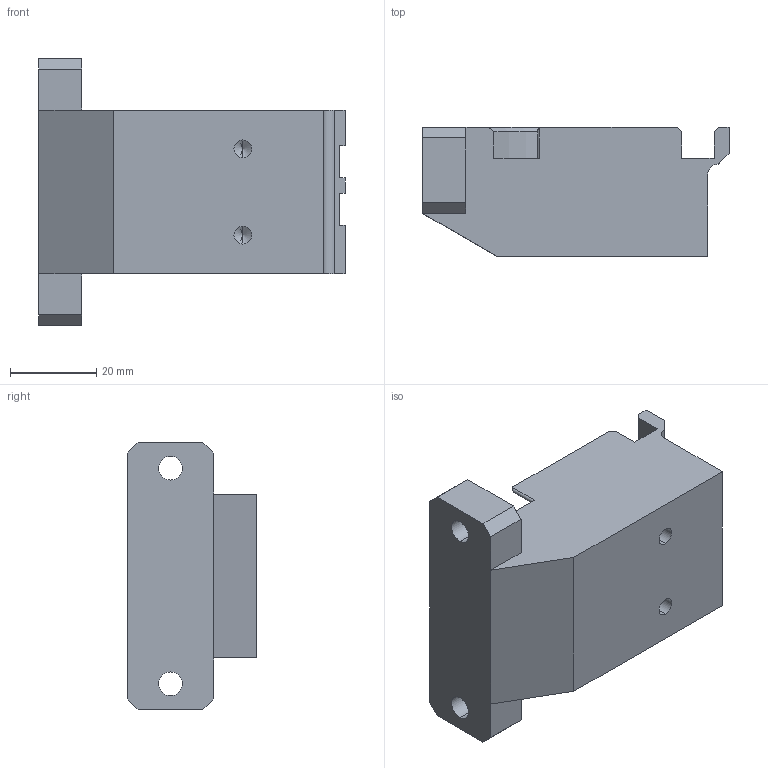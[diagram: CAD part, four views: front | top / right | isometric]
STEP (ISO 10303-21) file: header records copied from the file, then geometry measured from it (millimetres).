
FILE_DESCRIPTION (( 'STEP AP214' ), '1' );
FILE_NAME ('GZ47.05_V1固定座.STEP', '2021-06-30T09:24:36', ( '微软中国' ), ( 'Microsoft' ), 'SwSTEP 2.0', 'SolidWorks 2017', '' );
FILE_SCHEMA (( 'AUTOMOTIVE_DESIGN' ));
Length unit declared in the file: millimetre
Products named in the file (1): GZ47.05_V1嘐隅釱
Bounding box: 71 x 30 x 62 mm (x, y, z)
Volume: 71637.4 mm3; surface area: 14218.6 mm2
Topology: 1 solids, 1 shells, 84 faces, 218 edges, 134 vertices
Faces by surface type: plane 54, cylinder 20, cone 10
Entity records: 2610 total; most frequent: CARTESIAN_POINT 444, ORIENTED_EDGE 420, DIRECTION 418, EDGE_CURVE 210, LINE 166, VECTOR 166, VERTEX_POINT 134, AXIS2_PLACEMENT_3D 126
